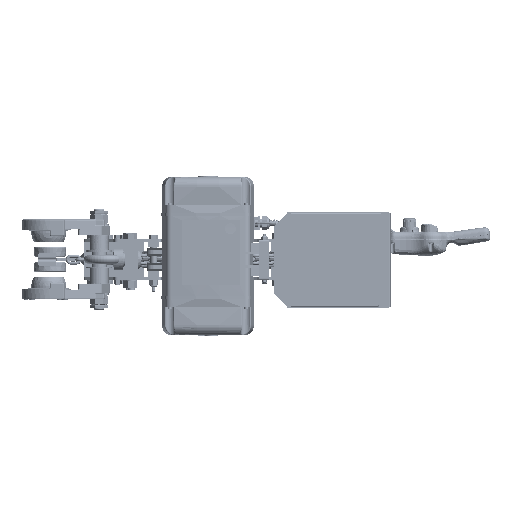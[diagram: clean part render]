
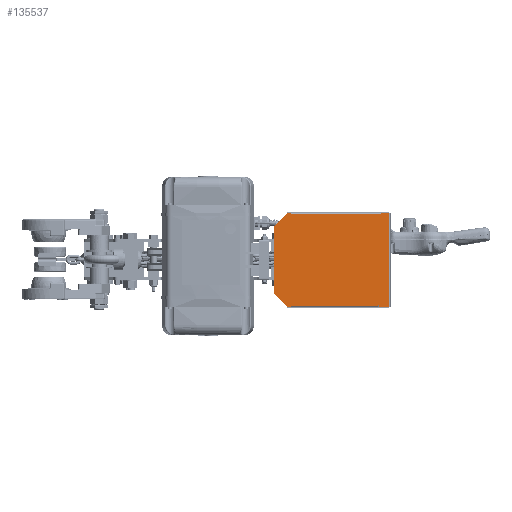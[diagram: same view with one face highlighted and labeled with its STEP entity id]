
A CAD part, left-side view. The second image highlights one B-rep face of the part: STEP entity #135537.
In plain terms, the highlighted planar face has unit normal (-1, 0, 0) as drawn and (0, -1, 0) by its records, which use the part's own axes.
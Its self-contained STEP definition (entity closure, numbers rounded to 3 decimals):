
#10359=LINE('',#208253,#21798);
#10362=LINE('',#208259,#21801);
#10364=LINE('',#208262,#21803);
#10366=LINE('',#208266,#21805);
#10378=LINE('',#208293,#21817);
#10379=LINE('',#208295,#21818);
#10380=LINE('',#208297,#21819);
#10381=LINE('',#208299,#21820);
#10382=LINE('',#208301,#21821);
#10383=LINE('',#208303,#21822);
#10384=LINE('',#208305,#21823);
#10385=LINE('',#208307,#21824);
#10386=LINE('',#208309,#21825);
#10387=LINE('',#208311,#21826);
#10388=LINE('',#208313,#21827);
#10389=LINE('',#208315,#21828);
#10390=LINE('',#208317,#21829);
#10391=LINE('',#208319,#21830);
#10392=LINE('',#208321,#21831);
#10393=LINE('',#208323,#21832);
#10394=LINE('',#208325,#21833);
#10395=LINE('',#208326,#21834);
#21798=VECTOR('',#168099,42.781);
#21801=VECTOR('',#168104,42.781);
#21803=VECTOR('',#168108,157.);
#21805=VECTOR('',#168112,8.5);
#21817=VECTOR('',#168132,3.75);
#21818=VECTOR('',#168133,1.5);
#21819=VECTOR('',#168134,0.75);
#21820=VECTOR('',#168135,202.);
#21821=VECTOR('',#168136,0.75);
#21822=VECTOR('',#168137,1.5);
#21823=VECTOR('',#168138,3.75);
#21824=VECTOR('',#168139,23.5);
#21825=VECTOR('',#168140,218.);
#21826=VECTOR('',#168141,18.5);
#21827=VECTOR('',#168142,3.75);
#21828=VECTOR('',#168143,1.5);
#21829=VECTOR('',#168144,0.75);
#21830=VECTOR('',#168145,207.);
#21831=VECTOR('',#168146,0.75);
#21832=VECTOR('',#168147,1.5);
#21833=VECTOR('',#168148,3.75);
#21834=VECTOR('',#168149,8.5);
#31058=PLANE('',#145795);
#38062=FACE_OUTER_BOUND('',#47003,.T.);
#47003=EDGE_LOOP('',(#103796,#103797,#103798,#103799,#103800,#103801,#103802,
#103803,#103804,#103805,#103806,#103807,#103808,#103809,#103810,#103811,
#103812,#103813,#103814,#103815,#103816,#103817));
#63177=VERTEX_POINT('',#208250);
#63178=VERTEX_POINT('',#208252);
#63179=VERTEX_POINT('',#208256);
#63180=VERTEX_POINT('',#208258);
#63181=VERTEX_POINT('',#208264);
#63192=VERTEX_POINT('',#208292);
#63193=VERTEX_POINT('',#208294);
#63194=VERTEX_POINT('',#208296);
#63195=VERTEX_POINT('',#208298);
#63196=VERTEX_POINT('',#208300);
#63197=VERTEX_POINT('',#208302);
#63198=VERTEX_POINT('',#208304);
#63199=VERTEX_POINT('',#208306);
#63200=VERTEX_POINT('',#208308);
#63201=VERTEX_POINT('',#208310);
#63202=VERTEX_POINT('',#208312);
#63203=VERTEX_POINT('',#208314);
#63204=VERTEX_POINT('',#208316);
#63205=VERTEX_POINT('',#208318);
#63206=VERTEX_POINT('',#208320);
#63207=VERTEX_POINT('',#208322);
#63208=VERTEX_POINT('',#208324);
#78045=EDGE_CURVE('',#63178,#63177,#10359,.T.);
#78048=EDGE_CURVE('',#63180,#63179,#10362,.T.);
#78050=EDGE_CURVE('',#63180,#63177,#10364,.T.);
#78052=EDGE_CURVE('',#63181,#63179,#10366,.T.);
#78064=EDGE_CURVE('',#63181,#63192,#10378,.T.);
#78065=EDGE_CURVE('',#63192,#63193,#10379,.T.);
#78066=EDGE_CURVE('',#63193,#63194,#10380,.T.);
#78067=EDGE_CURVE('',#63194,#63195,#10381,.T.);
#78068=EDGE_CURVE('',#63195,#63196,#10382,.T.);
#78069=EDGE_CURVE('',#63196,#63197,#10383,.T.);
#78070=EDGE_CURVE('',#63197,#63198,#10384,.T.);
#78071=EDGE_CURVE('',#63199,#63198,#10385,.T.);
#78072=EDGE_CURVE('',#63200,#63199,#10386,.T.);
#78073=EDGE_CURVE('',#63201,#63200,#10387,.T.);
#78074=EDGE_CURVE('',#63201,#63202,#10388,.T.);
#78075=EDGE_CURVE('',#63202,#63203,#10389,.T.);
#78076=EDGE_CURVE('',#63203,#63204,#10390,.T.);
#78077=EDGE_CURVE('',#63204,#63205,#10391,.T.);
#78078=EDGE_CURVE('',#63205,#63206,#10392,.T.);
#78079=EDGE_CURVE('',#63206,#63207,#10393,.T.);
#78080=EDGE_CURVE('',#63207,#63208,#10394,.T.);
#78081=EDGE_CURVE('',#63178,#63208,#10395,.T.);
#103796=ORIENTED_EDGE('',*,*,#78045,.T.);
#103797=ORIENTED_EDGE('',*,*,#78050,.F.);
#103798=ORIENTED_EDGE('',*,*,#78048,.T.);
#103799=ORIENTED_EDGE('',*,*,#78052,.F.);
#103800=ORIENTED_EDGE('',*,*,#78064,.T.);
#103801=ORIENTED_EDGE('',*,*,#78065,.T.);
#103802=ORIENTED_EDGE('',*,*,#78066,.T.);
#103803=ORIENTED_EDGE('',*,*,#78067,.T.);
#103804=ORIENTED_EDGE('',*,*,#78068,.T.);
#103805=ORIENTED_EDGE('',*,*,#78069,.T.);
#103806=ORIENTED_EDGE('',*,*,#78070,.T.);
#103807=ORIENTED_EDGE('',*,*,#78071,.F.);
#103808=ORIENTED_EDGE('',*,*,#78072,.F.);
#103809=ORIENTED_EDGE('',*,*,#78073,.F.);
#103810=ORIENTED_EDGE('',*,*,#78074,.T.);
#103811=ORIENTED_EDGE('',*,*,#78075,.T.);
#103812=ORIENTED_EDGE('',*,*,#78076,.T.);
#103813=ORIENTED_EDGE('',*,*,#78077,.T.);
#103814=ORIENTED_EDGE('',*,*,#78078,.T.);
#103815=ORIENTED_EDGE('',*,*,#78079,.T.);
#103816=ORIENTED_EDGE('',*,*,#78080,.T.);
#103817=ORIENTED_EDGE('',*,*,#78081,.F.);
#135537=ADVANCED_FACE('',(#38062),#31058,.F.);
#145795=AXIS2_PLACEMENT_3D('',#208291,#168130,#168131);
#168099=DIRECTION('',(-0.713,0.,0.701));
#168104=DIRECTION('',(-0.713,0.,-0.701));
#168108=DIRECTION('',(1.,0.,0.));
#168112=DIRECTION('',(0.,0.,1.));
#168130=DIRECTION('center_axis',(0.,1.,0.));
#168131=DIRECTION('ref_axis',(0.,0.,1.));
#168132=DIRECTION('',(1.,0.,0.));
#168133=DIRECTION('',(0.,0.,-1.));
#168134=DIRECTION('',(-1.,0.,0.));
#168135=DIRECTION('',(0.,0.,-1.));
#168136=DIRECTION('',(1.,0.,0.));
#168137=DIRECTION('',(0.,0.,-1.));
#168138=DIRECTION('',(-1.,0.,0.));
#168139=DIRECTION('',(0.,0.,1.));
#168140=DIRECTION('',(-1.,0.,0.));
#168141=DIRECTION('',(0.,0.,-1.));
#168142=DIRECTION('',(-1.,0.,0.));
#168143=DIRECTION('',(0.,0.,1.));
#168144=DIRECTION('',(1.,0.,0.));
#168145=DIRECTION('',(0.,0.,1.));
#168146=DIRECTION('',(-1.,0.,0.));
#168147=DIRECTION('',(0.,0.,1.));
#168148=DIRECTION('',(1.,0.,0.));
#168149=DIRECTION('',(0.,0.,-1.));
#208250=CARTESIAN_POINT('',(168.151,-30.316,270.));
#208252=CARTESIAN_POINT('',(198.651,-30.316,240.));
#208253=CARTESIAN_POINT('',(181.76,-30.316,256.615));
#208256=CARTESIAN_POINT('',(-19.349,-30.316,240.));
#208258=CARTESIAN_POINT('',(11.151,-30.316,270.));
#208259=CARTESIAN_POINT('',(-17.707,-30.316,241.615));
#208262=CARTESIAN_POINT('',(-19.349,-30.316,270.));
#208264=CARTESIAN_POINT('',(-19.349,-30.316,231.5));
#208266=CARTESIAN_POINT('',(-19.349,-30.316,1.5));
#208291=CARTESIAN_POINT('Origin',(89.651,-30.316,135.75));
#208292=CARTESIAN_POINT('',(-15.599,-30.316,231.5));
#208293=CARTESIAN_POINT('',(37.026,-30.316,231.5));
#208294=CARTESIAN_POINT('',(-15.599,-30.316,230.));
#208295=CARTESIAN_POINT('',(-15.599,-30.316,182.875));
#208296=CARTESIAN_POINT('',(-16.349,-30.316,230.));
#208297=CARTESIAN_POINT('',(35.151,-30.316,230.));
#208298=CARTESIAN_POINT('',(-16.349,-30.316,28.));
#208299=CARTESIAN_POINT('',(-16.349,-30.316,182.875));
#208300=CARTESIAN_POINT('',(-15.599,-30.316,28.));
#208301=CARTESIAN_POINT('',(37.026,-30.316,28.));
#208302=CARTESIAN_POINT('',(-15.599,-30.316,26.5));
#208303=CARTESIAN_POINT('',(-15.599,-30.316,81.125));
#208304=CARTESIAN_POINT('',(-19.349,-30.316,26.5));
#208305=CARTESIAN_POINT('',(35.151,-30.316,26.5));
#208306=CARTESIAN_POINT('',(-19.349,-30.316,3.));
#208307=CARTESIAN_POINT('',(-19.349,-30.316,1.5));
#208308=CARTESIAN_POINT('',(198.651,-30.316,3.));
#208309=CARTESIAN_POINT('',(-19.349,-30.316,3.));
#208310=CARTESIAN_POINT('',(198.651,-30.316,21.5));
#208311=CARTESIAN_POINT('',(198.651,-30.316,270.));
#208312=CARTESIAN_POINT('',(194.901,-30.316,21.5));
#208313=CARTESIAN_POINT('',(142.276,-30.316,21.5));
#208314=CARTESIAN_POINT('',(194.901,-30.316,23.));
#208315=CARTESIAN_POINT('',(194.901,-30.316,79.375));
#208316=CARTESIAN_POINT('',(195.651,-30.316,23.));
#208317=CARTESIAN_POINT('',(144.151,-30.316,23.));
#208318=CARTESIAN_POINT('',(195.651,-30.316,230.));
#208319=CARTESIAN_POINT('',(195.651,-30.316,79.375));
#208320=CARTESIAN_POINT('',(194.901,-30.316,230.));
#208321=CARTESIAN_POINT('',(142.276,-30.316,230.));
#208322=CARTESIAN_POINT('',(194.901,-30.316,231.5));
#208323=CARTESIAN_POINT('',(194.901,-30.316,183.625));
#208324=CARTESIAN_POINT('',(198.651,-30.316,231.5));
#208325=CARTESIAN_POINT('',(144.151,-30.316,231.5));
#208326=CARTESIAN_POINT('',(198.651,-30.316,270.));
